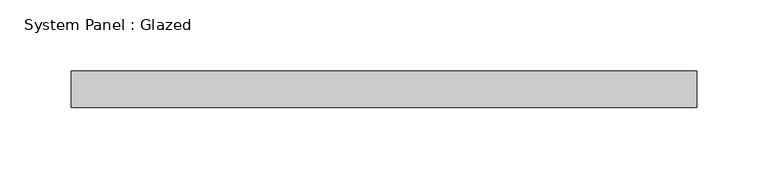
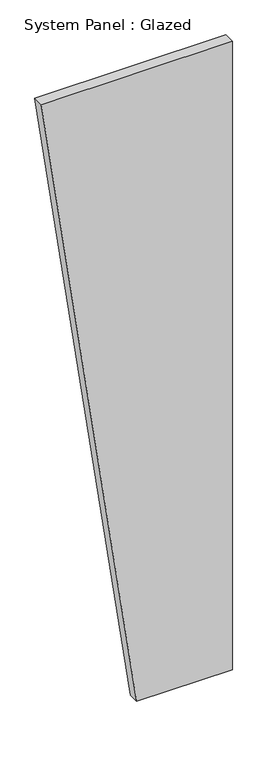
"""IFC4 building model written with IfcOpenShell, lengths in millimetres: plate geometry, System Panel : Glazed."""

from ifc_helpers import new_model, si_unit, frame, origin, place, context, project, spatial, polyline, outline, extrude, source, transform, mapped, element, save


def system_panel_glazed_7b94502b(model_context):
    return source(origin(), model_context, "Body", "SweptSolid", [
        extrude(outline(polyline([(0.0, -2e-07), (0.0, 219.2805757), (1524.0, 219.2805757), (1524.0, -219.2805757), (0.0, -2e-07)])), frame((0.0, 19.05, 0.0), z_axis=(0.0, 1.0, 0.0), x_axis=(0.0, 0.0, 1.0)), (0.0, 0.0, 1.0), 25.4),
    ])


if __name__ == "__main__":
    model = new_model("IFC4")
    model_context = context("Model", 3, world=origin())
    ifc_project = project(units=[si_unit("LENGTHUNIT", "METRE", prefix="MILLI")], contexts=[model_context])
    site = spatial("IfcSite", under=ifc_project)
    building = spatial("IfcBuilding", under=site)
    placement = place(None, origin())
    system_panel_glazed_shape = system_panel_glazed_7b94502b(model_context)
    element("IfcPlate", 1, ObjectType="System Panel : Glazed", at=placement, inside=building, context=model_context, shape_type="MappedRepresentation", body=[
        mapped(system_panel_glazed_shape, transform((0.0, 0.0, 0.0), x_axis=(1.0, 0.0, 0.0), y_axis=(0.0, 1.0, 0.0), z_axis=(0.0, 0.0, 1.0))),
    ])
    save(model, "model.ifc")
